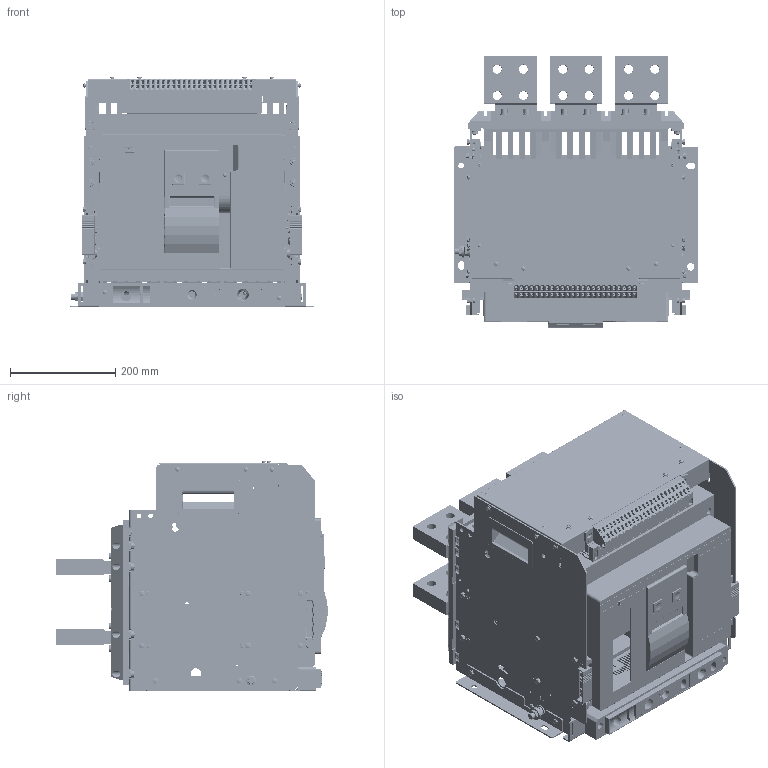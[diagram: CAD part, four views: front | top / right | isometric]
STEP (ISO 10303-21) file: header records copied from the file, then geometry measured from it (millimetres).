
FILE_DESCRIPTION (( 'STEP AP203' ), '1' );
FILE_NAME ('ACB MGW3 -4000-3P 3D Drawing.STEP', '2024-06-17T14:29:03', ( '' ), ( '' ), 'SwSTEP 2.0', 'SolidWorks 2022', '' );
FILE_SCHEMA (( 'CONFIG_CONTROL_DESIGN' ));
Length unit declared in the file: millimetre
Products named in the file (335): ACB MGW3 -4000-3P 3D Drawing.sldasm-Part-90; ACB MGW3 -4000-3P 3D Drawing.sldasm-Part-16; ACB MGW3 -4000-3P 3D Drawing.sldasm-Part-292; ACB MGW3 -4000-3P 3D Drawing.sldasm-Part-143; ACB MGW3 -4000-3P 3D Drawing.sldasm-Part-159; ACB MGW3 -4000-3P 3D Drawing.sldasm-Part-332; ACB MGW3 -4000-3P 3D Drawing.sldasm-Part-185; ACB MGW3 -4000-3P 3D Drawing.sldasm-Part-51; ACB MGW3 -4000-3P 3D Drawing.sldasm-Part-151; ACB MGW3 -4000-3P 3D Drawing.sldasm-Part-163; ACB MGW3 -4000-3P 3D Drawing.sldasm-Part-173; ACB MGW3 -4000-3P 3D Drawing; ACB MGW3 -4000-3P 3D Drawing.sldasm-Part-154; ACB MGW3 -4000-3P 3D Drawing.sldasm-Part-246; ACB MGW3 -4000-3P 3D Drawing.sldasm-Part-227; ACB MGW3 -4000-3P 3D Drawing.sldasm-Part-236; ACB MGW3 -4000-3P 3D Drawing.sldasm-Part-60; ACB MGW3 -4000-3P 3D Drawing.sldasm-Part-156; ACB MGW3 -4000-3P 3D Drawing.sldasm-Part-88; ACB MGW3 -4000-3P 3D Drawing.sldasm-Part-111; ACB MGW3 -4000-3P 3D Drawing.sldasm-Part-38; ACB MGW3 -4000-3P 3D Drawing.sldasm-Part-314; ACB MGW3 -4000-3P 3D Drawing.sldasm-Part-294; ACB MGW3 -4000-3P 3D Drawing.sldasm-Part-293; ACB MGW3 -4000-3P 3D Drawing.sldasm-Part-244; ACB MGW3 -4000-3P 3D Drawing.sldasm-Part-194; ACB MGW3 -4000-3P 3D Drawing.sldasm-Part-85; ACB MGW3 -4000-3P 3D Drawing.sldasm-Part-223; ACB MGW3 -4000-3P 3D Drawing.sldasm-Part-14; ACB MGW3 -4000-3P 3D Drawing.sldasm-Part-237; ACB MGW3 -4000-3P 3D Drawing.sldasm-Part-285; ACB MGW3 -4000-3P 3D Drawing.sldasm-Part-233; ACB MGW3 -4000-3P 3D Drawing.sldasm-Part-35; ACB MGW3 -4000-3P 3D Drawing.sldasm-Part-93; ACB MGW3 -4000-3P 3D Drawing.sldasm-Part-59; ACB MGW3 -4000-3P 3D Drawing.sldasm-Part-113; ACB MGW3 -4000-3P 3D Drawing.sldasm-Part-258; ACB MGW3 -4000-3P 3D Drawing.sldasm-Part-110; ACB MGW3 -4000-3P 3D Drawing.sldasm-Part-21; ACB MGW3 -4000-3P 3D Drawing.sldasm-Part-239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
Assembly tree (334 placements, depth 2):
  ACB MGW3 -4000-3P 3D Drawing
    ACB MGW3 -4000-3P 3D Drawing.sldasm-Part-1
    ACB MGW3 -4000-3P 3D Drawing.sldasm-Part-2
    ACB MGW3 -4000-3P 3D Drawing.sldasm-Part-3
    ACB MGW3 -4000-3P 3D Drawing.sldasm-Part-4
    ACB MGW3 -4000-3P 3D Drawing.sldasm-Part-5
    ACB MGW3 -4000-3P 3D Drawing.sldasm-Part-6
    ACB MGW3 -4000-3P 3D Drawing.sldasm-Part-7
    ACB MGW3 -4000-3P 3D Drawing.sldasm-Part-8
    ACB MGW3 -4000-3P 3D Drawing.sldasm-Part-9
    ACB MGW3 -4000-3P 3D Drawing.sldasm-Part-10
    ACB MGW3 -4000-3P 3D Drawing.sldasm-Part-11
    ACB MGW3 -4000-3P 3D Drawing.sldasm-Part-12
    ACB MGW3 -4000-3P 3D Drawing.sldasm-Part-13
    ACB MGW3 -4000-3P 3D Drawing.sldasm-Part-14
    ACB MGW3 -4000-3P 3D Drawing.sldasm-Part-15
    ACB MGW3 -4000-3P 3D Drawing.sldasm-Part-16
    ACB MGW3 -4000-3P 3D Drawing.sldasm-Part-17
    ACB MGW3 -4000-3P 3D Drawing.sldasm-Part-18
    ACB MGW3 -4000-3P 3D Drawing.sldasm-Part-19
    ACB MGW3 -4000-3P 3D Drawing.sldasm-Part-20
    ACB MGW3 -4000-3P 3D Drawing.sldasm-Part-21
    ACB MGW3 -4000-3P 3D Drawing.sldasm-Part-22
    ACB MGW3 -4000-3P 3D Drawing.sldasm-Part-23
    ACB MGW3 -4000-3P 3D Drawing.sldasm-Part-24
    ACB MGW3 -4000-3P 3D Drawing.sldasm-Part-25
    ACB MGW3 -4000-3P 3D Drawing.sldasm-Part-26
    ACB MGW3 -4000-3P 3D Drawing.sldasm-Part-27
    ACB MGW3 -4000-3P 3D Drawing.sldasm-Part-28
    ACB MGW3 -4000-3P 3D Drawing.sldasm-Part-29
    ACB MGW3 -4000-3P 3D Drawing.sldasm-Part-30
    ACB MGW3 -4000-3P 3D Drawing.sldasm-Part-31
    ACB MGW3 -4000-3P 3D Drawing.sldasm-Part-32
    ACB MGW3 -4000-3P 3D Drawing.sldasm-Part-33
    ACB MGW3 -4000-3P 3D Drawing.sldasm-Part-34
    ACB MGW3 -4000-3P 3D Drawing.sldasm-Part-35
    ACB MGW3 -4000-3P 3D Drawing.sldasm-Part-36
    ACB MGW3 -4000-3P 3D Drawing.sldasm-Part-37
    ACB MGW3 -4000-3P 3D Drawing.sldasm-Part-38
    ACB MGW3 -4000-3P 3D Drawing.sldasm-Part-39
    ACB MGW3 -4000-3P 3D Drawing.sldasm-Part-40
    ACB MGW3 -4000-3P 3D Drawing.sldasm-Part-41
    ACB MGW3 -4000-3P 3D Drawing.sldasm-Part-42
    ACB MGW3 -4000-3P 3D Drawing.sldasm-Part-43
    ACB MGW3 -4000-3P 3D Drawing.sldasm-Part-44
    ACB MGW3 -4000-3P 3D Drawing.sldasm-Part-45
    ACB MGW3 -4000-3P 3D Drawing.sldasm-Part-46
    ACB MGW3 -4000-3P 3D Drawing.sldasm-Part-47
    ACB MGW3 -4000-3P 3D Drawing.sldasm-Part-48
    ACB MGW3 -4000-3P 3D Drawing.sldasm-Part-49
    ACB MGW3 -4000-3P 3D Drawing.sldasm-Part-50
    ACB MGW3 -4000-3P 3D Drawing.sldasm-Part-51
    ACB MGW3 -4000-3P 3D Drawing.sldasm-Part-52
    ACB MGW3 -4000-3P 3D Drawing.sldasm-Part-53
    ACB MGW3 -4000-3P 3D Drawing.sldasm-Part-54
    ACB MGW3 -4000-3P 3D Drawing.sldasm-Part-55
    ACB MGW3 -4000-3P 3D Drawing.sldasm-Part-56
    ACB MGW3 -4000-3P 3D Drawing.sldasm-Part-57
    ACB MGW3 -4000-3P 3D Drawing.sldasm-Part-58
    ACB MGW3 -4000-3P 3D Drawing.sldasm-Part-59
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Bounding box: 465 x 517.18 x 439.14 mm (x, y, z)
Volume: 19204596.2 mm3; surface area: 4890066.7 mm2
Topology: 334 solids, 372 shells, 35155 faces, 96185 edges, 61945 vertices
Faces by surface type: plane 22360, cylinder 8607, torus 1571, cone 1488, bspline 754, sphere 375
Entity records: 1165738 total; most frequent: CARTESIAN_POINT 232079, ORIENTED_EDGE 190950, DIRECTION 182117, EDGE_CURVE 95475, LINE 69575, VECTOR 69575, VERTEX_POINT 61914, AXIS2_PLACEMENT_3D 56271
